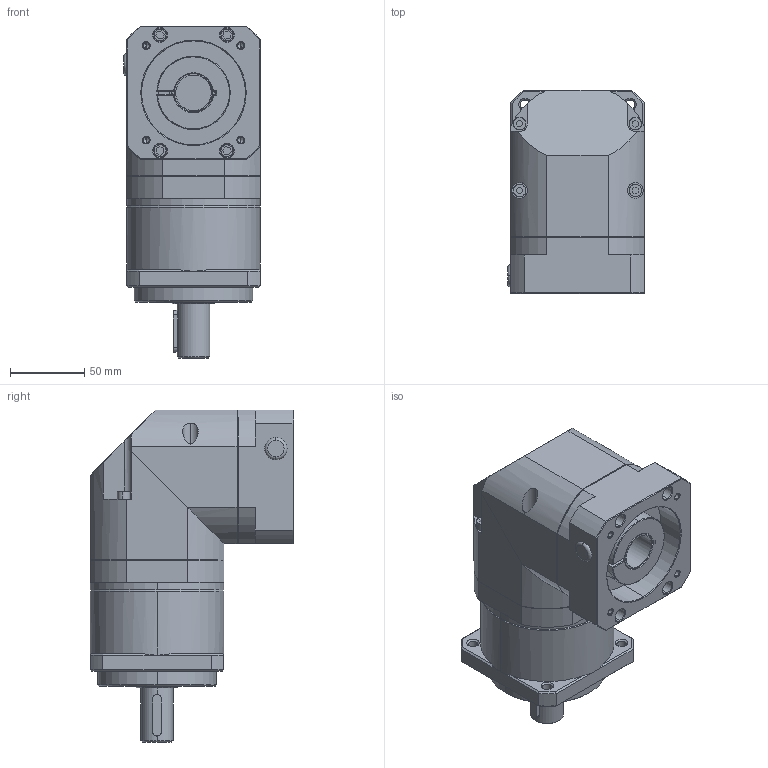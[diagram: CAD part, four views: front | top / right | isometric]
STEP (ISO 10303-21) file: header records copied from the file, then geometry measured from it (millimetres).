
FILE_DESCRIPTION (( 'STEP AP203' ), '1' );
FILE_NAME ('LBFR90-(L1)-S2-P2-7090M5.STEP', '2024-11-15T02:58:03', ( '微软用户' ), ( '微软中国' ), 'SwSTEP 2.0', 'SolidWorks 2022', '' );
FILE_SCHEMA (( 'CONFIG_CONTROL_DESIGN' ));
Length unit declared in the file: millimetre
Products named in the file (1): LBFR90-(L1)-S2-P2-7090M5
Bounding box: 92 x 137 x 223.5 mm (x, y, z)
Volume: 1488597.1 mm3; surface area: 168725.8 mm2
Topology: 11 solids, 11 shells, 493 faces, 1107 edges, 667 vertices
Faces by surface type: plane 199, cylinder 149, cone 127, torus 18
Entity records: 14085 total; most frequent: CARTESIAN_POINT 2928, DIRECTION 2428, ORIENTED_EDGE 2186, EDGE_CURVE 1093, AXIS2_PLACEMENT_3D 933, VERTEX_POINT 667, LINE 562, EDGE_LOOP 562
